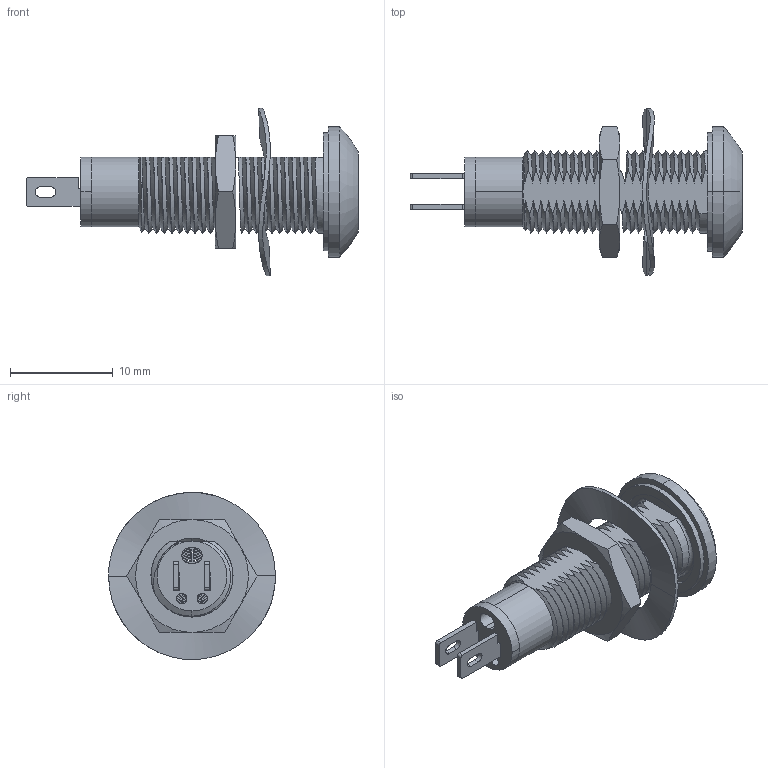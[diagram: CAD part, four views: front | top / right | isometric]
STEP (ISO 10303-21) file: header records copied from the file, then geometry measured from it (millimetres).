
FILE_DESCRIPTION (( 'STEP AP203' ), '1' );
FILE_NAME ('698 WITH TAGS .STEP', '2013-09-17T09:21:37', ( 'mark' ), ( '' ), 'SwSTEP 2.0', 'SolidWorks 2013', '' );
FILE_SCHEMA (( 'CONFIG_CONTROL_DESIGN' ));
Length unit declared in the file: millimetre
Products named in the file (1): 698 WITH TAGS 
Bounding box: 32.35 x 16.25 x 16.31 mm (x, y, z)
Surface area: 1859.5 mm2 (no closed solid volume)
Topology: 0 solids, 19 shells, 271 faces, 731 edges, 487 vertices
Faces by surface type: cylinder 92, torus 66, plane 54, bspline 51, cone 8
Entity records: 50758 total; most frequent: CARTESIAN_POINT 44303, ORIENTED_EDGE 1321, DIRECTION 1285, EDGE_CURVE 731, AXIS2_PLACEMENT_3D 531, VERTEX_POINT 487, CIRCLE 310, EDGE_LOOP 306
